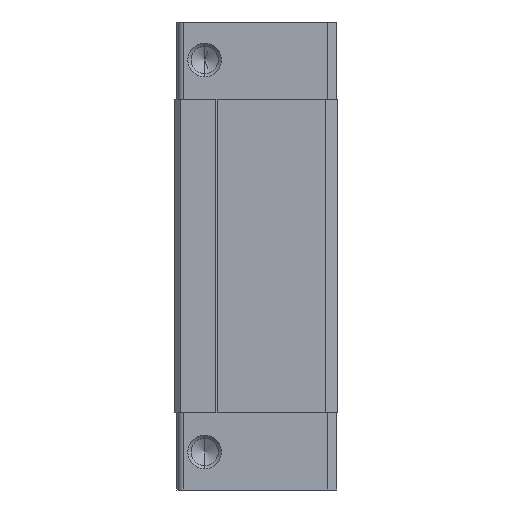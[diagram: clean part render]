
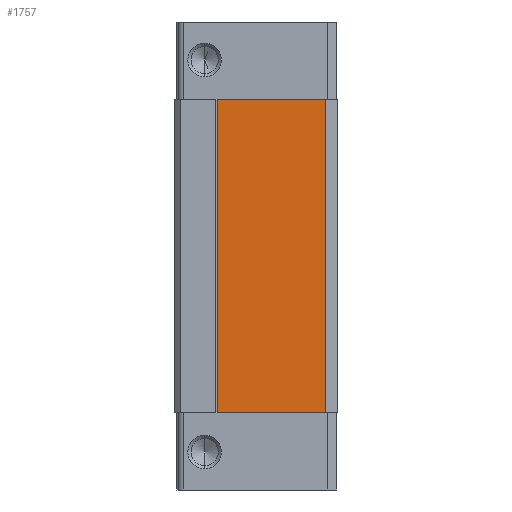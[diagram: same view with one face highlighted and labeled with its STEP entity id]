
A CAD part, left-side view. The second image highlights one B-rep face of the part: STEP entity #1757.
In plain terms, the highlighted planar face has unit normal (-1, 0, 0).
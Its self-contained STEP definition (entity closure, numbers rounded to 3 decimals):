
#1691 = ORIENTED_EDGE ( 'NONE', *, *, #1692, .F. ) ;
#1692 = EDGE_CURVE ( 'NONE', #1729, #1735, #7220, .T. ) ;
#1711 = ORIENTED_EDGE ( 'NONE', *, *, #1728, .T. ) ;
#1720 = EDGE_CURVE ( 'NONE', #1749, #1760, #7258, .T. ) ;
#1728 = EDGE_CURVE ( 'NONE', #1729, #1749, #7404, .T. ) ;
#1729 = VERTEX_POINT ( 'NONE', #7400 ) ;
#1733 = ORIENTED_EDGE ( 'NONE', *, *, #1734, .F. ) ;
#1734 = EDGE_CURVE ( 'NONE', #1735, #1760, #7386, .T. ) ;
#1735 = VERTEX_POINT ( 'NONE', #7393 ) ;
#1749 = VERTEX_POINT ( 'NONE', #7419 ) ;
#1757 = ADVANCED_FACE ( 'NONE', ( #7439 ), #7436, .F. ) ;
#1758 = EDGE_LOOP ( 'NONE', ( #1759, #1733, #1691, #1711 ) ) ;
#1759 = ORIENTED_EDGE ( 'NONE', *, *, #1720, .T. ) ;
#1760 = VERTEX_POINT ( 'NONE', #7474 ) ;
#7173 = DIRECTION ( 'NONE',  ( 0., -1., 0. ) ) ;
#7218 = VECTOR ( 'NONE', #7173, 1000. ) ;
#7219 = CARTESIAN_POINT ( 'NONE',  ( -23.7, -22.2, 28.9 ) ) ;
#7220 = LINE ( 'NONE', #7219, #7218 ) ;
#7255 = DIRECTION ( 'NONE',  ( 0., -1., 0. ) ) ;
#7256 = VECTOR ( 'NONE', #7255, 1000. ) ;
#7257 = CARTESIAN_POINT ( 'NONE',  ( -23.7, -22.2, -28.9 ) ) ;
#7258 = LINE ( 'NONE', #7257, #7256 ) ;
#7386 = LINE ( 'NONE', #7392, #7391 ) ;
#7390 = DIRECTION ( 'NONE',  ( 0., 0., -1. ) ) ;
#7391 = VECTOR ( 'NONE', #7390, 1000. ) ;
#7392 = CARTESIAN_POINT ( 'NONE',  ( -23.7, -22.2, 28.9 ) ) ;
#7393 = CARTESIAN_POINT ( 'NONE',  ( -23.7, -22.2, 28.9 ) ) ;
#7400 = CARTESIAN_POINT ( 'NONE',  ( -23.7, -2.3, 28.9 ) ) ;
#7401 = DIRECTION ( 'NONE',  ( 0., 0., -1. ) ) ;
#7402 = VECTOR ( 'NONE', #7401, 1000. ) ;
#7403 = CARTESIAN_POINT ( 'NONE',  ( -23.7, -2.3, 28.9 ) ) ;
#7404 = LINE ( 'NONE', #7403, #7402 ) ;
#7419 = CARTESIAN_POINT ( 'NONE',  ( -23.7, -2.3, -28.9 ) ) ;
#7436 = PLANE ( 'NONE',  #7478 ) ;
#7439 = FACE_OUTER_BOUND ( 'NONE', #1758, .T. ) ;
#7474 = CARTESIAN_POINT ( 'NONE',  ( -23.7, -22.2, -28.9 ) ) ;
#7475 = DIRECTION ( 'NONE',  ( 0., 1., 0. ) ) ;
#7476 = DIRECTION ( 'NONE',  ( 1., 0., 0. ) ) ;
#7477 = CARTESIAN_POINT ( 'NONE',  ( -23.7, -22.2, 28.9 ) ) ;
#7478 = AXIS2_PLACEMENT_3D ( 'NONE', #7477, #7476, #7475 ) ;
